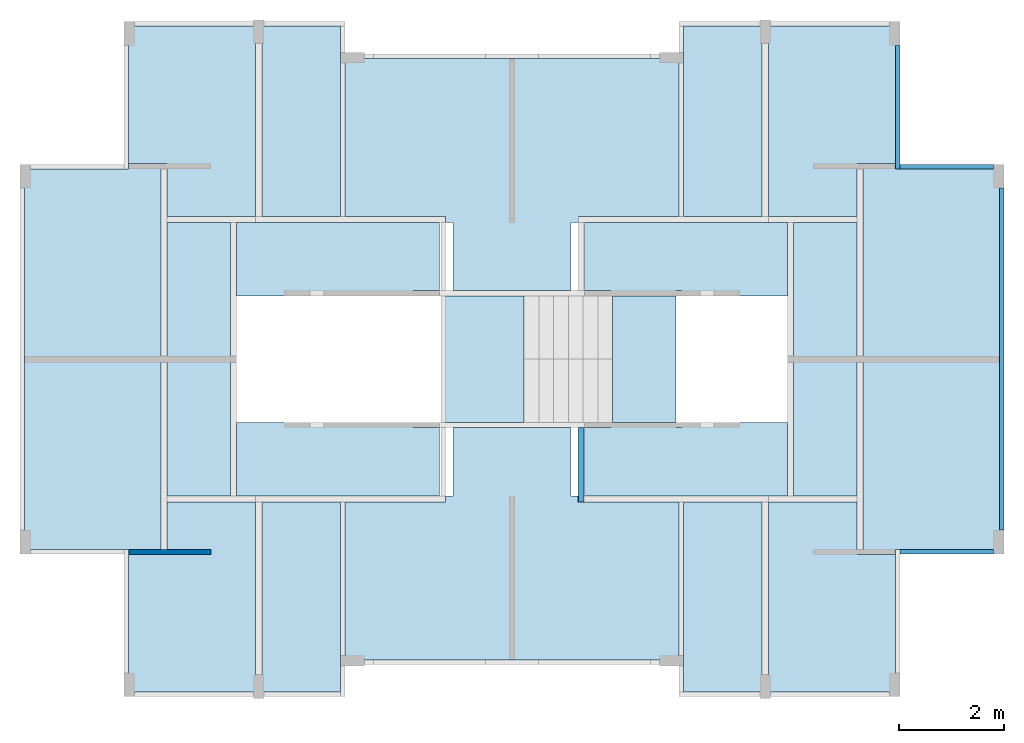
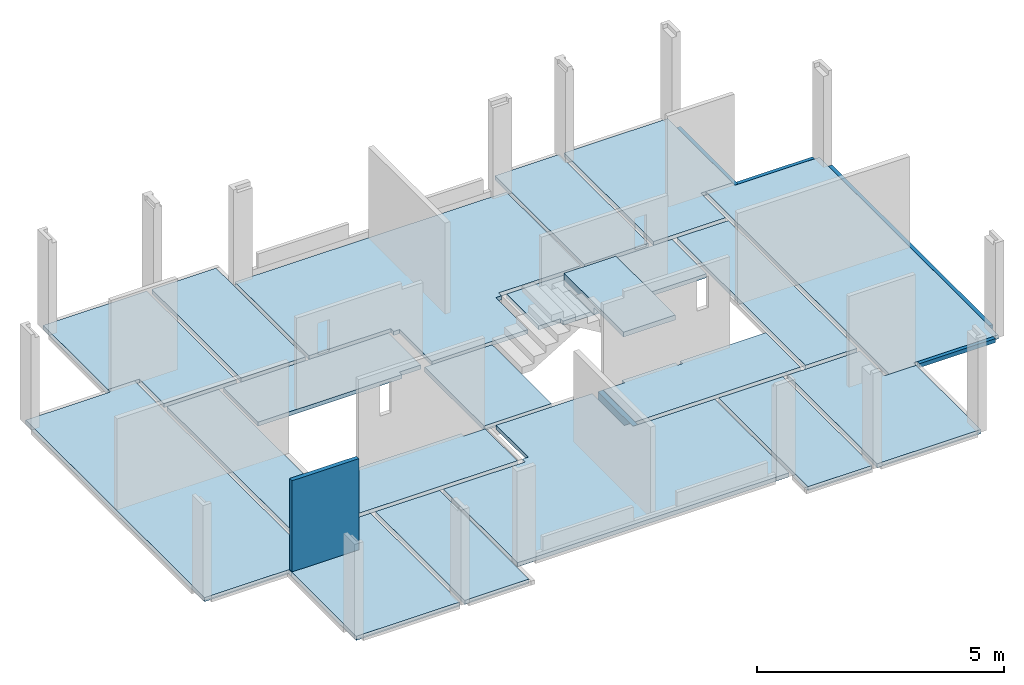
# One storey, part 3 of 6: 20 slabs, 5 beams, 1 wall, 1 element without a shape of its own.
"""IFC4 building model written with IfcOpenShell, lengths in metres."""

from ifc_helpers import new_model, entity, si_unit, converted_unit, derived_unit, direction, frame, frame_2d, origin, place, context, subcontext, project, spatial, polyline, indexed_curve, rectangle, outline, extrude, polygons, source, transform, mapped, material, type_object, type_shapes, element, aggregate, save


model = new_model("IFC4")

# Units and contexts
model_context = context("Model", 3, precision=1e-05, world=origin(), true_north=direction((6.123031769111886e-17, 1.0)))
body_context = subcontext(model_context, "Body", "Model", "MODEL_VIEW")
ifc_project = project(units=[si_unit("LENGTHUNIT", "METRE"), si_unit("AREAUNIT", "SQUARE_METRE"), si_unit("VOLUMEUNIT", "CUBIC_METRE"), converted_unit("PLANEANGLEUNIT", "DEGREE", entity("IfcRatioMeasure", 0.017453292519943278), si_unit("PLANEANGLEUNIT", "RADIAN"), dimensions=[0, 0, 0, 0, 0, 0, 0]), si_unit("MASSUNIT", "GRAM", prefix="KILO"), derived_unit("MASSDENSITYUNIT", [(si_unit("MASSUNIT", "GRAM", prefix="KILO"), 1), (si_unit("LENGTHUNIT", "METRE"), -3)]), derived_unit("IONCONCENTRATIONUNIT", [(si_unit("MASSUNIT", "GRAM", prefix="KILO"), 1), (si_unit("LENGTHUNIT", "METRE"), -3)]), derived_unit("MOMENTOFINERTIAUNIT", [(si_unit("LENGTHUNIT", "METRE"), 4)]), si_unit("TIMEUNIT", "SECOND"), si_unit("FREQUENCYUNIT", "HERTZ"), si_unit("THERMODYNAMICTEMPERATUREUNIT", "DEGREE_CELSIUS"), derived_unit("THERMALTRANSMITTANCEUNIT", [(si_unit("MASSUNIT", "GRAM", prefix="KILO"), 1), (si_unit("THERMODYNAMICTEMPERATUREUNIT", "KELVIN"), -1), (si_unit("TIMEUNIT", "SECOND"), -3)]), derived_unit("THERMALCONDUCTANCEUNIT", [(si_unit("MASSUNIT", "GRAM", prefix="KILO"), 1), (si_unit("THERMODYNAMICTEMPERATUREUNIT", "KELVIN"), -1), (si_unit("TIMEUNIT", "SECOND"), -3), (si_unit("LENGTHUNIT", "METRE"), 1)]), derived_unit("VOLUMETRICFLOWRATEUNIT", [(si_unit("LENGTHUNIT", "METRE"), 3), (si_unit("TIMEUNIT", "SECOND"), -1)]), derived_unit("MASSFLOWRATEUNIT", [(si_unit("MASSUNIT", "GRAM", prefix="KILO"), 1), (si_unit("TIMEUNIT", "SECOND"), -1)]), derived_unit("ROTATIONALFREQUENCYUNIT", [(si_unit("TIMEUNIT", "SECOND"), -1)]), si_unit("ELECTRICCURRENTUNIT", "AMPERE"), si_unit("ELECTRICVOLTAGEUNIT", "VOLT"), si_unit("POWERUNIT", "WATT"), si_unit("FORCEUNIT", "NEWTON", prefix="KILO"), si_unit("ILLUMINANCEUNIT", "LUX"), si_unit("LUMINOUSFLUXUNIT", "LUMEN"), si_unit("LUMINOUSINTENSITYUNIT", "CANDELA"), derived_unit("USERDEFINED", [(si_unit("MASSUNIT", "GRAM", prefix="KILO"), -1), (si_unit("LENGTHUNIT", "METRE"), -2), (si_unit("TIMEUNIT", "SECOND"), 3), (si_unit("LUMINOUSFLUXUNIT", "LUMEN"), 1)]), derived_unit("USERDEFINED", [(si_unit("MASSUNIT", "GRAM", prefix="KILO"), 1), (si_unit("TIMEUNIT", "SECOND"), -3), (si_unit("LENGTHUNIT", "METRE"), 3), (si_unit("ELECTRICCURRENTUNIT", "AMPERE"), -2)]), derived_unit("SOUNDPOWERUNIT", [(si_unit("MASSUNIT", "GRAM", prefix="KILO"), 1), (si_unit("TIMEUNIT", "SECOND"), -3), (si_unit("LENGTHUNIT", "METRE"), 2)]), derived_unit("SOUNDPRESSUREUNIT", [(si_unit("MASSUNIT", "GRAM", prefix="KILO"), 1), (si_unit("LENGTHUNIT", "METRE"), -1), (si_unit("TIMEUNIT", "SECOND"), -2)]), derived_unit("LINEARVELOCITYUNIT", [(si_unit("LENGTHUNIT", "METRE"), 1), (si_unit("TIMEUNIT", "SECOND"), -1)]), si_unit("PRESSUREUNIT", "PASCAL"), derived_unit("USERDEFINED", [(si_unit("MASSUNIT", "GRAM", prefix="KILO"), 1), (si_unit("LENGTHUNIT", "METRE"), -2), (si_unit("TIMEUNIT", "SECOND"), -2)]), derived_unit("LINEARFORCEUNIT", [(si_unit("MASSUNIT", "GRAM", prefix="KILO"), 1), (si_unit("TIMEUNIT", "SECOND"), -2)]), derived_unit("PLANARFORCEUNIT", [(si_unit("MASSUNIT", "GRAM", prefix="KILO"), 1), (si_unit("LENGTHUNIT", "METRE"), -1), (si_unit("TIMEUNIT", "SECOND"), -2)]), derived_unit("SPECIFICHEATCAPACITYUNIT", [(si_unit("THERMODYNAMICTEMPERATUREUNIT", "KELVIN"), -1), (si_unit("LENGTHUNIT", "METRE"), 2), (si_unit("TIMEUNIT", "SECOND"), -2)]), derived_unit("HEATINGVALUEUNIT", [(si_unit("LENGTHUNIT", "METRE"), 2), (si_unit("TIMEUNIT", "SECOND"), -2)]), derived_unit("VAPORPERMEABILITYUNIT", [(si_unit("LENGTHUNIT", "METRE"), -1), (si_unit("TIMEUNIT", "SECOND"), 1)]), derived_unit("DYNAMICVISCOSITYUNIT", [(si_unit("MASSUNIT", "GRAM", prefix="KILO"), 1), (si_unit("TIMEUNIT", "SECOND"), -1), (si_unit("LENGTHUNIT", "METRE"), -1)]), derived_unit("THERMALEXPANSIONCOEFFICIENTUNIT", [(si_unit("THERMODYNAMICTEMPERATUREUNIT", "KELVIN"), -1)]), derived_unit("MODULUSOFELASTICITYUNIT", [(si_unit("MASSUNIT", "GRAM", prefix="KILO"), 1), (si_unit("LENGTHUNIT", "METRE"), -1), (si_unit("TIMEUNIT", "SECOND"), -2)]), derived_unit("ISOTHERMALMOISTURECAPACITYUNIT", [(si_unit("LENGTHUNIT", "METRE"), 3), (si_unit("MASSUNIT", "GRAM", prefix="KILO"), -1)]), derived_unit("MOISTUREDIFFUSIVITYUNIT", [(si_unit("TIMEUNIT", "SECOND"), -1), (si_unit("LENGTHUNIT", "METRE"), 2)])], contexts=[model_context])

# Site, building, storey
site_placement = place(None, origin())
site = spatial("IfcSite", under=ifc_project, at=site_placement, Name="Default", CompositionType="ELEMENT")
building_placement = place(site_placement, origin())
building = spatial("IfcBuilding", under=site, at=building_placement, Name="Las nubes", CompositionType="ELEMENT")
storey_placement = place(building_placement, frame((0.0, 0.0, 9.400000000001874)))
storey = spatial("IfcBuildingStorey", under=building, at=storey_placement, Name="PISO 5", CompositionType="ELEMENT", Elevation=9.400000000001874)

# Beams
ifc_material_1 = material(Name="Concrete, Cast In Situ", Category="Materials")
beam_type_1 = type_object("IfcBeamType", Name="M_Concrete-Rectangular Beam:(0.085x0.10)", PredefinedType="BEAM", material=ifc_material_1)
shared_shape_1 = source(origin(), body_context, "Body", "SweptSolid", [
    extrude(outline(indexed_curve([(-0.050000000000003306, -0.04249999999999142), (0.04999999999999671, -0.042500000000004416), (0.05000000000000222, 0.04249999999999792), (-0.04999999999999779, 0.042500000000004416), (-0.050000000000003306, -0.04249999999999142)], self_intersect=False)), frame((16.697500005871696, -10.082497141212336, 9.350000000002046), z_axis=(1.0, 0.0, 0.0), x_axis=(0.0, 0.0, -1.0)), (0.0, 0.0, 1.0), 1.7749999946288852),
])
type_shapes(beam_type_1, [shared_shape_1])
beam_1_placement = place(storey_placement, frame((0.0, 0.0, -9.400000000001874)))
element("IfcBeam", 1, at=beam_1_placement, inside=storey, type_object=beam_type_1, material=ifc_material_1, Name="M_Concrete-Rectangular Beam:(0.085x0.10)", ObjectType="M_Concrete-Rectangular Beam:(0.085x0.10)", PredefinedType="BEAM", context=body_context, shape_type="MappedRepresentation", body=[
    mapped(shared_shape_1, transform((0.0, 0.0, 0.0), scale=1.0)),
])
beam_type_2 = type_object("IfcBeamType", Name="M_Concrete-Rectangular Beam:(0.085x0.10)", PredefinedType="BEAM", material=ifc_material_1)
shared_shape_2 = source(origin(), body_context, "Body", "SweptSolid", [
    extrude(outline(indexed_curve([(-0.042499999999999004, -0.050000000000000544), (0.042500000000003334, -0.050000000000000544), (0.042500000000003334, 0.04999999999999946), (-0.042499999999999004, 0.04999999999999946), (-0.042499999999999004, -0.050000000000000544)], self_intersect=False)), frame((18.630000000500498, -9.675000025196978, 9.350000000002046), z_axis=(0.0, 1.0, 0.0), x_axis=(-1.0, 0.0, 0.0)), (0.0, 0.0, 1.0), 6.499999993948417),
])
type_shapes(beam_type_2, [shared_shape_2])
beam_2_placement = place(storey_placement, frame((0.0, 0.0, -9.400000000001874)))
element("IfcBeam", 2, at=beam_2_placement, inside=storey, type_object=beam_type_2, material=ifc_material_1, Name="M_Concrete-Rectangular Beam:(0.085x0.10)", ObjectType="M_Concrete-Rectangular Beam:(0.085x0.10)", PredefinedType="BEAM", context=body_context, shape_type="MappedRepresentation", body=[
    mapped(shared_shape_2, transform((0.0, 0.0, 0.0), scale=1.0)),
])
beam_type_3 = type_object("IfcBeamType", Name="M_Concrete-Rectangular Beam:(0.085x0.10)", PredefinedType="BEAM", material=ifc_material_1)
shared_shape_3 = source(origin(), body_context, "Body", "SweptSolid", [
    extrude(outline(indexed_curve([(-0.042500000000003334, -0.050000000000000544), (0.042499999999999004, -0.050000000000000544), (0.042499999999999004, 0.04999999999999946), (-0.042500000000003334, 0.04999999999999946), (-0.042500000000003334, -0.050000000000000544)], self_intersect=False)), frame((16.65500000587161, -2.8099983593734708, 9.350000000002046), z_axis=(0.0, 1.0, 0.0), x_axis=(-1.0, 0.0, 0.0)), (0.0, 0.0, 1.0), 2.34999833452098),
])
type_shapes(beam_type_3, [shared_shape_3])
beam_3_placement = place(storey_placement, frame((0.0, 0.0, -9.400000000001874)))
element("IfcBeam", 3, at=beam_3_placement, inside=storey, type_object=beam_type_3, material=ifc_material_1, Name="M_Concrete-Rectangular Beam:(0.085x0.10)", ObjectType="M_Concrete-Rectangular Beam:(0.085x0.10)", PredefinedType="BEAM", context=body_context, shape_type="MappedRepresentation", body=[
    mapped(shared_shape_3, transform((0.0, 0.0, 0.0), scale=1.0)),
])
beam_type_4 = type_object("IfcBeamType", Name="M_Concrete-Rectangular Beam:(0.115x0.25)", PredefinedType="BEAM", material=ifc_material_1)
shared_shape_4 = source(origin(), body_context, "Body", "Tessellation", [
    polygons([(0.11500000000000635, 1.4150000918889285, 0.24999999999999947), (2.1657342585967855e-15, 1.4150000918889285, 0.24999999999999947), (4.331468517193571e-15, 0.11500012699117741, 0.24999999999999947), (0.00500000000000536, 0.11500012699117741, 0.24999999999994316), (0.00500000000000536, 0.0, 0.24999999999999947), (0.11500000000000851, 0.0, 0.24999999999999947), (0.11500000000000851, 0.1150000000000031, 0.24999999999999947), (2.1657342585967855e-15, 1.4150000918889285, 0.0), (4.331468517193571e-15, 0.0, 0.0), (4.331468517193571e-15, 0.0, 0.14999999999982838), (4.331468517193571e-15, 0.11500012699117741, 0.14999999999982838), (0.11500000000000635, 1.4150000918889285, 0.0), (0.11500000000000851, 0.11500000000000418, 0.0), (0.11500000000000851, 0.0, 0.0), (0.11500000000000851, 0.0, 0.14999999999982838), (0.00500000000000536, 0.0, 0.14999999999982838), (0.00500000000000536, 0.11500012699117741, 0.14999999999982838)], [[[1, 2, 3, 4, 5, 6, 7]], [[2, 8, 9, 10, 11, 3]], [[8, 12, 13, 14, 9]], [[12, 1, 7, 6, 15, 14, 13]], [[8, 2, 1, 12]], [[16, 17, 11, 10]], [[17, 16, 5, 4]], [[17, 4, 3, 11]], [[9, 14, 15, 6, 5, 16, 10]]], closed=True),
])
type_shapes(beam_type_4, [shared_shape_4])
beam_4_placement = place(storey_placement, frame((10.577499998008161, -9.140000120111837, -0.24999999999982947)))
element("IfcBeam", 4, at=beam_4_placement, inside=storey, type_object=beam_type_4, material=ifc_material_1, Name="M_Concrete-Rectangular Beam:(0.115x0.25)", ObjectType="M_Concrete-Rectangular Beam:(0.115x0.25)", PredefinedType="BEAM", context=body_context, shape_type="MappedRepresentation", body=[
    mapped(shared_shape_4, transform((0.0, 0.0, 0.0), scale=1.0)),
])
beam_type_5 = type_object("IfcBeamType", Name="M_Concrete-Rectangular Beam:(0.085x0.10)", PredefinedType="BEAM", material=ifc_material_1)
shared_shape_5 = source(origin(), body_context, "Body", "SweptSolid", [
    extrude(outline(indexed_curve([(-0.05000000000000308, -0.04249999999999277), (0.049999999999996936, -0.04250000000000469), (0.050000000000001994, 0.04249999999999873), (-0.04999999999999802, 0.04250000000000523), (-0.05000000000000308, -0.04249999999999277)], self_intersect=False)), frame((18.472500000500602, -2.7674983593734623, 9.350000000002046), z_axis=(-1.0, 0.0, 0.0), x_axis=(0.0, 0.0, -1.0)), (0.0, 0.0, 1.0), 1.7749999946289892),
])
type_shapes(beam_type_5, [shared_shape_5])
beam_5_placement = place(storey_placement, frame((0.0, 0.0, -9.400000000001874)))
element("IfcBeam", 5, at=beam_5_placement, inside=storey, type_object=beam_type_5, material=ifc_material_1, Name="M_Concrete-Rectangular Beam:(0.085x0.10)", ObjectType="M_Concrete-Rectangular Beam:(0.085x0.10)", PredefinedType="BEAM", context=body_context, shape_type="MappedRepresentation", body=[
    mapped(shared_shape_5, transform((0.0, 0.0, 0.0), scale=1.0)),
])

# Slabs
ifc_material_2 = material(Name="Concrete - Cast-in-Place Concrete - 28 MPa SLAB", Category="Materials")
slab_type_1 = type_object("IfcSlabType", Name="Floor:PLACA ESTRUCTURAL 0.10", PredefinedType="FLOOR", material=ifc_material_2)
slab_1_placement = place(storey_placement, origin())
element("IfcSlab", 6, at=slab_1_placement, inside=storey, type_object=slab_type_1, material=ifc_material_2, Name="Floor:PLACA ESTRUCTURAL 0.10", ObjectType="Floor:PLACA ESTRUCTURAL 0.10", PredefinedType="FLOOR", context=body_context, shape_type="SweptSolid", body=[
    extrude(outline(indexed_curve([(-0.5383333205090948, -1.0516670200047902), (2.0766666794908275, -1.0516670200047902), (2.07666667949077, 1.368332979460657), (-1.5383333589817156, 1.3683329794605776), (-1.5383333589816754, -0.316665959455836), (-0.5383333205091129, -0.31666595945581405), (-0.5383333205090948, -1.0516670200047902)], self_intersect=False)), frame((3.0841670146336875, -2.1716667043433, 0.0), z_axis=(0.0, 0.0, -1.0), x_axis=(0.0, 1.0, 0.0)), (0.0, 0.0, 1.0), 0.1),
])
slab_2_placement = place(storey_placement, origin())
element("IfcSlab", 7, at=slab_2_placement, inside=storey, type_object=slab_type_1, material=ifc_material_2, Name="Floor:PLACA ESTRUCTURAL 0.10", ObjectType="Floor:PLACA ESTRUCTURAL 0.10", PredefinedType="FLOOR", context=body_context, shape_type="SweptSolid", body=[
    extrude(outline(indexed_curve([(-3.6149999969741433, -1.636250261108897), (3.614999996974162, -1.636250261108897), (3.614999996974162, 0.33874973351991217), (3.7150000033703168, 0.3387497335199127), (3.7150000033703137, 0.9587507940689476), (-3.7150000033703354, 0.9587507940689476), (-3.715000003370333, 0.33874973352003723), (-3.6149999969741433, 0.3387497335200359), (-3.6149999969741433, -1.636250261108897)], self_intersect=False)), frame((1.693750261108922, -6.425000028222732, 0.0), z_axis=(0.0, 0.0, -1.0), x_axis=(0.0, 1.0, 0.0)), (0.0, 0.0, 1.0), 0.1),
])
slab_3_placement = place(storey_placement, origin())
element("IfcSlab", 8, at=slab_3_placement, inside=storey, type_object=slab_type_1, material=ifc_material_2, Name="Floor:PLACA ESTRUCTURAL 0.10", ObjectType="Floor:PLACA ESTRUCTURAL 0.10", PredefinedType="FLOOR", context=body_context, shape_type="SweptSolid", body=[
    extrude(outline(indexed_curve([(-2.0766666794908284, -1.0516670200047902), (0.5383333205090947, -1.0516670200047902), (0.5383333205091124, -0.3166659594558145), (1.5383333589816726, -0.3166659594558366), (1.5383333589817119, 1.368332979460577), (-2.0766666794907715, 1.3683329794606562), (-2.0766666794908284, -1.0516670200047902)], self_intersect=False)), frame((3.0841670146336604, -10.67833335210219, 0.0), z_axis=(0.0, 0.0, -1.0), x_axis=(0.0, 1.0, 0.0)), (0.0, 0.0, 1.0), 0.1),
])
slab_4_placement = place(storey_placement, frame((2.767501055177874, -12.755000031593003, -0.09999999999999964)))
element("IfcSlab", 9, at=slab_4_placement, inside=storey, type_object=slab_type_1, material=ifc_material_2, Name="Floor:PLACA ESTRUCTURAL 0.10", ObjectType="Floor:PLACA ESTRUCTURAL 0.10", PredefinedType="FLOOR", context=body_context, shape_type="SweptSolid", body=[
    extrude(rectangle(XDim=1.2049989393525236, YDim=5.19999992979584, at=frame_2d((5.952499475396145, 0.0), x_axis=(1.0, 0.0))), frame((6.554998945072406, 6.33000000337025, 0.09999999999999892), z_axis=(0.0, 0.0, -1.0), x_axis=(-1.0, 0.0, 0.0)), (0.0, 0.0, 1.0), 0.1),
])
slab_5_placement = place(storey_placement, frame((2.767501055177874, -12.755000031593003, -0.09999999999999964)))
element("IfcSlab", 10, at=slab_5_placement, inside=storey, type_object=slab_type_1, Name="Floor:PLACA ESTRUCTURAL 0.10:2", ObjectType="Floor:PLACA ESTRUCTURAL 0.10", PredefinedType="FLOOR", context=body_context, shape_type="SweptSolid", body=[
    extrude(outline(polyline([(1.3749999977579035, 2.599999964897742), (1.3749999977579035, 1.300000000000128), (1.8799999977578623, 1.300000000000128), (1.8799999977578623, 1.2000000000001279), (5.235000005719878, 1.2000000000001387), (5.235000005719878, 2.5999999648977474), (1.3749999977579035, 2.599999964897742)])), frame((6.554998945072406, 6.33000000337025, 0.09999999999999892), z_axis=(0.0, 0.0, -1.0), x_axis=(-1.0, 0.0, 0.0)), (0.0, 0.0, 1.0), 0.1),
])
slab_6_placement = place(storey_placement, frame((2.767501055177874, -12.755000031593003, -0.09999999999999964)))
element("IfcSlab", 11, at=slab_6_placement, inside=storey, type_object=slab_type_1, Name="Floor:PLACA ESTRUCTURAL 0.10:3", ObjectType="Floor:PLACA ESTRUCTURAL 0.10", PredefinedType="FLOOR", context=body_context, shape_type="SweptSolid", body=[
    extrude(outline(polyline([(5.235000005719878, -1.2000000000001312), (1.8799999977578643, -1.2000000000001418), (1.8799999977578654, -1.3000000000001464), (1.3749999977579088, -1.3000000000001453), (1.3749999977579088, -2.600000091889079), (5.235000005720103, -2.600000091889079), (5.235000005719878, -1.2000000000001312)])), frame((6.554998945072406, 6.33000000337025, 0.09999999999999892), z_axis=(0.0, 0.0, -1.0), x_axis=(-1.0, 0.0, 0.0)), (0.0, 0.0, 1.0), 0.1),
])
slab_7_placement = place(storey_placement, frame((2.767501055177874, -12.755000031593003, -0.09999999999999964)))
element("IfcSlab", 12, at=slab_7_placement, inside=storey, type_object=slab_type_1, Name="Floor:PLACA ESTRUCTURAL 0.10:4", ObjectType="Floor:PLACA ESTRUCTURAL 0.10", PredefinedType="FLOOR", context=body_context, shape_type="SweptSolid", body=[
    extrude(rectangle(XDim=3.6149999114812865, YDim=1.499999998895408, at=frame_2d((4.00500000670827, 4.522500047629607), x_axis=(0.0, -1.0))), frame((6.554998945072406, 6.33000000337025, 0.09999999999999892), z_axis=(0.0, 0.0, -1.0), x_axis=(-1.0, 0.0, 0.0)), (0.0, 0.0, 1.0), 0.1),
])
slab_8_placement = place(storey_placement, frame((2.767501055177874, -12.755000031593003, -0.09999999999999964)))
element("IfcSlab", 13, at=slab_8_placement, inside=storey, type_object=slab_type_1, Name="Floor:PLACA ESTRUCTURAL 0.10:5", ObjectType="Floor:PLACA ESTRUCTURAL 0.10", PredefinedType="FLOOR", context=body_context, shape_type="SweptSolid", body=[
    extrude(rectangle(XDim=3.6149999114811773, YDim=1.4999999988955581, at=frame_2d((4.005000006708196, -4.522500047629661), x_axis=(0.0, -1.0))), frame((6.554998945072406, 6.33000000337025, 0.09999999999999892), z_axis=(0.0, 0.0, -1.0), x_axis=(-1.0, 0.0, 0.0)), (0.0, 0.0, 1.0), 0.1),
])
slab_9_placement = place(storey_placement, frame((2.767501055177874, -12.755000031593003, -0.09999999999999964)))
element("IfcSlab", 14, at=slab_9_placement, inside=storey, type_object=slab_type_1, Name="Floor:PLACA ESTRUCTURAL 0.10:6", ObjectType="Floor:PLACA ESTRUCTURAL 0.10", PredefinedType="FLOOR", context=body_context, shape_type="SweptSolid", body=[
    extrude(outline(polyline([(3.1700000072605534, 2.7150000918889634), (3.1700000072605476, 5.715000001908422), (-3.1700000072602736, 5.715000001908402), (-3.1700000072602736, 2.7150000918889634), (-1.2599999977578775, 2.7150000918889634), (-1.2599999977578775, 2.5999999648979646), (-1.1199999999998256, 2.5999999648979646), (-1.1199999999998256, 1.3000000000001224), (1.1200000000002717, 1.30000000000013), (1.1200000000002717, 2.5999999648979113), (1.2599999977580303, 2.5999999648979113), (1.2599999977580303, 2.7150000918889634), (3.1700000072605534, 2.7150000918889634)])), frame((6.554998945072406, 6.33000000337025, 0.09999999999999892), z_axis=(0.0, 0.0, -1.0), x_axis=(-1.0, 0.0, 0.0)), (0.0, 0.0, 1.0), 0.1),
])
slab_10_placement = place(storey_placement, frame((2.767501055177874, -12.755000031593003, -0.09999999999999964)))
element("IfcSlab", 15, at=slab_10_placement, inside=storey, type_object=slab_type_1, Name="Floor:PLACA ESTRUCTURAL 0.10:7", ObjectType="Floor:PLACA ESTRUCTURAL 0.10", PredefinedType="FLOOR", context=body_context, shape_type="SweptSolid", body=[
    extrude(outline(polyline([(1.2599999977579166, -2.599999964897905), (1.1200000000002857, -2.599999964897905), (1.1200000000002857, -1.3000000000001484), (-1.1199999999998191, -1.3000000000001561), (-1.1199999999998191, -2.5999999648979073), (-1.2599999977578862, -2.5999999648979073), (-1.2599999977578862, -2.7150000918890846), (-3.1700000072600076, -2.7150000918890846), (-3.170000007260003, -5.715000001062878), (3.1700000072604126, -5.715000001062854), (3.170000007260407, -2.715000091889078), (1.2599999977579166, -2.7150000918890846), (1.2599999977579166, -2.599999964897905)])), frame((6.554998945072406, 6.33000000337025, 0.09999999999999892), z_axis=(0.0, 0.0, -1.0), x_axis=(-1.0, 0.0, 0.0)), (0.0, 0.0, 1.0), 0.1),
])
slab_11_placement = place(storey_placement, frame((2.767501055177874, -12.755000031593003, -0.09999999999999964)))
element("IfcSlab", 16, at=slab_11_placement, inside=storey, type_object=slab_type_1, Name="Floor:PLACA ESTRUCTURAL 0.10:8", ObjectType="Floor:PLACA ESTRUCTURAL 0.10", PredefinedType="FLOOR", context=body_context, shape_type="SweptSolid", body=[
    extrude(rectangle(XDim=1.499999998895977, YDim=3.6149999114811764, at=frame_2d((-4.005000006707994, -4.522500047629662), x_axis=(1.0, 0.0))), frame((6.554998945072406, 6.33000000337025, 0.09999999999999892), z_axis=(0.0, 0.0, -1.0), x_axis=(-1.0, 0.0, 0.0)), (0.0, 0.0, 1.0), 0.1),
])
slab_12_placement = place(storey_placement, frame((2.767501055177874, -12.755000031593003, -0.09999999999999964)))
element("IfcSlab", 17, at=slab_12_placement, inside=storey, type_object=slab_type_1, Name="Floor:PLACA ESTRUCTURAL 0.10:9", ObjectType="Floor:PLACA ESTRUCTURAL 0.10", PredefinedType="FLOOR", context=body_context, shape_type="SweptSolid", body=[
    extrude(rectangle(XDim=1.499999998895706, YDim=3.614999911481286, at=frame_2d((-4.005000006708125, 4.522500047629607), x_axis=(1.0, 0.0))), frame((6.554998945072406, 6.33000000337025, 0.09999999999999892), z_axis=(0.0, 0.0, -1.0), x_axis=(-1.0, 0.0, 0.0)), (0.0, 0.0, 1.0), 0.1),
])
slab_13_placement = place(storey_placement, frame((2.767501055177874, -12.755000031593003, -0.09999999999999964)))
element("IfcSlab", 18, at=slab_13_placement, inside=storey, type_object=slab_type_1, Name="Floor:PLACA ESTRUCTURAL 0.10:10", ObjectType="Floor:PLACA ESTRUCTURAL 0.10", PredefinedType="FLOOR", context=body_context, shape_type="SweptSolid", body=[
    extrude(rectangle(XDim=1.2049989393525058, YDim=5.1999999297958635, at=frame_2d((-5.95249947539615, 0.0), x_axis=(1.0, 0.0))), frame((6.554998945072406, 6.33000000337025, 0.09999999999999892), z_axis=(0.0, 0.0, -1.0), x_axis=(-1.0, 0.0, 0.0)), (0.0, 0.0, 1.0), 0.1),
])
slab_14_placement = place(storey_placement, frame((2.767501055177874, -12.755000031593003, -0.09999999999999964)))
element("IfcSlab", 19, at=slab_14_placement, inside=storey, type_object=slab_type_1, Name="Floor:PLACA ESTRUCTURAL 0.10:11", ObjectType="Floor:PLACA ESTRUCTURAL 0.10", PredefinedType="FLOOR", context=body_context, shape_type="SweptSolid", body=[
    extrude(outline(polyline([(-3.1200000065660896, 1.2000000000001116), (-1.879999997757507, 1.2000000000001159), (-1.8799999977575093, 1.3000000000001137), (-1.374999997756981, 1.3000000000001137), (-1.374999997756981, 2.6000000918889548), (-5.235000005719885, 2.600000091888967), (-5.235000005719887, 1.2000000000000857), (-3.2350000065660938, 1.2000000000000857), (-3.2350000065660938, 1.300000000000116), (-3.1200000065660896, 1.300000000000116), (-3.1200000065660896, 1.2000000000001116)])), frame((6.554998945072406, 6.33000000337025, 0.09999999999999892), z_axis=(0.0, 0.0, -1.0), x_axis=(-1.0, 0.0, 0.0)), (0.0, 0.0, 1.0), 0.1),
])
slab_15_placement = place(storey_placement, frame((2.767501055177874, -12.755000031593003, -0.09999999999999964)))
element("IfcSlab", 20, at=slab_15_placement, inside=storey, type_object=slab_type_1, Name="Floor:PLACA ESTRUCTURAL 0.10:12", ObjectType="Floor:PLACA ESTRUCTURAL 0.10", PredefinedType="FLOOR", context=body_context, shape_type="SweptSolid", body=[
    extrude(outline(polyline([(-5.235000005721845, -2.6000000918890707), (-1.3749999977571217, -2.6000000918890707), (-1.3749999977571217, -1.3000000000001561), (-1.8799999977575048, -1.3000000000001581), (-1.8799999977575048, -1.2000000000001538), (-3.120000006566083, -1.2000000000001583), (-3.120000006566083, -1.300000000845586), (-3.2350000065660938, -1.300000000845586), (-3.2350000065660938, -1.1999999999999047), (-5.2350000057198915, -1.1999999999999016), (-5.235000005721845, -2.6000000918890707)])), frame((6.554998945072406, 6.33000000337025, 0.09999999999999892), z_axis=(0.0, 0.0, -1.0), x_axis=(-1.0, 0.0, 0.0)), (0.0, 0.0, 1.0), 0.1),
])
slab_16_placement = place(storey_placement, origin())
element("IfcSlab", 21, at=slab_16_placement, inside=storey, type_object=slab_type_1, material=ifc_material_2, Name="Floor:PLACA ESTRUCTURAL 0.10", ObjectType="Floor:PLACA ESTRUCTURAL 0.10", PredefinedType="FLOOR", context=body_context, shape_type="SweptSolid", body=[
    extrude(outline(indexed_curve([(-3.7150000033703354, -0.9587507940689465), (3.7150000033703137, -0.9587507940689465), (3.7150000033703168, -0.33874973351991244), (3.614999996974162, -0.33874973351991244), (3.614999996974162, 1.636250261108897), (-3.6149999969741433, 1.636250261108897), (-3.6149999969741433, -0.3387497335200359), (-3.715000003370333, -0.33874973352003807), (-3.7150000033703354, -0.9587507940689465)], self_intersect=False)), frame((16.95124973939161, -6.425000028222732, 0.0), z_axis=(0.0, 0.0, -1.0), x_axis=(0.0, 1.0, 0.0)), (0.0, 0.0, 1.0), 0.1),
])
slab_17_placement = place(storey_placement, origin())
element("IfcSlab", 22, at=slab_17_placement, inside=storey, type_object=slab_type_1, material=ifc_material_2, Name="Floor:PLACA ESTRUCTURAL 0.10", ObjectType="Floor:PLACA ESTRUCTURAL 0.10", PredefinedType="FLOOR", context=body_context, shape_type="SweptSolid", body=[
    extrude(outline(indexed_curve([(-2.0766666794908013, -1.368332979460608), (1.538333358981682, -1.368332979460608), (1.5383333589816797, 0.316665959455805), (0.5383333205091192, 0.3166659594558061), (0.5383333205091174, 1.0516670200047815), (-2.0766666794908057, 1.0516670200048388), (-2.0766666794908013, -1.368332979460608)], self_intersect=False)), frame((15.56083298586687, -10.67833335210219, 0.0), z_axis=(0.0, 0.0, -1.0), x_axis=(0.0, 1.0, 0.0)), (0.0, 0.0, 1.0), 0.1),
])
slab_18_placement = place(storey_placement, origin())
element("IfcSlab", 23, at=slab_18_placement, inside=storey, type_object=slab_type_1, material=ifc_material_2, Name="Floor:PLACA ESTRUCTURAL 0.10", ObjectType="Floor:PLACA ESTRUCTURAL 0.10", PredefinedType="FLOOR", context=body_context, shape_type="SweptSolid", body=[
    extrude(outline(indexed_curve([(-1.5383333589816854, -1.3683329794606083), (2.0766666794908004, -1.3683329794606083), (2.076666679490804, 1.0516670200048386), (-0.538333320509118, 1.0516670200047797), (-0.5383333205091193, 0.3166659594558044), (-1.538333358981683, 0.31666595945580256), (-1.5383333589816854, -1.3683329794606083)], self_intersect=False)), frame((15.56083298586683, -2.1716667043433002, 0.0), z_axis=(0.0, 0.0, -1.0), x_axis=(0.0, 1.0, 0.0)), (0.0, 0.0, 1.0), 0.1),
])

# Stair, slab
stair_type = type_object("IfcStairType", Name="Cast-In-Place Stair:B1080_Escalera Monolitica en Concreto", PredefinedType="HALF_TURN_STAIR")
stair_placement = place(storey_placement, origin())
stair = element("IfcStair", 24, at=stair_placement, inside=storey, type_object=stair_type, Name="Cast-In-Place Stair:Stair", ObjectType="Cast-In-Place Stair:B1080_Escalera Monolitica en Concreto", PredefinedType="HALF_TURN_STAIR")
ifc_material_3 = material(Name="Concrete, Cast-in-Place gray", Category="Materials")
slab_type_2 = type_object("IfcSlabType", Name="Monolithic Landing:120mm Thickness", PredefinedType="LANDING")
slab_19_placement = place(stair_placement, frame((11.23250000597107, -7.625000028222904, 0.0)))
slab_19 = element("IfcSlab", 25, at=slab_19_placement, type_object=slab_type_2, material=ifc_material_3, Name="Cast-In-Place Stair:Stair:524192 Landing 1", ObjectType="Monolithic Landing:120mm Thickness", PredefinedType="LANDING", context=body_context, shape_type="Tessellation", body=[
    polygons([(0.0, 2.4000000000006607, 1.1750000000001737), (0.0, 1.2000000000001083, 1.1750000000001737), (0.0, 1.199000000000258, 1.1750000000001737), (0.0, 0.0, 1.1750000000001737), (1.2100000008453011, 0.0, 1.1750000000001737), (1.2100000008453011, 2.4000000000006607, 1.1750000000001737), (0.31321383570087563, 2.4000000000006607, 1.1750000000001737), (1.2100000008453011, 0.0, 1.0550000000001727), (1.2100000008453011, 2.4000000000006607, 1.0550000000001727), (0.0, 2.4000000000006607, 0.8672315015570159), (0.0, 2.4000000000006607, 1.007142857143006), (0.3132138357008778, 2.4000000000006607, 1.0550000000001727), (0.0, 0.0, 1.0550000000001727), (0.3132138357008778, 1.2000000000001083, 1.0550000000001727), (0.0, 1.199000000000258, 1.0550000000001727), (0.0, 1.2000000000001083, 1.0550000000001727), (0.0, 1.2000000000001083, 0.8672315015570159), (0.0, 1.2000000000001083, 1.007142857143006)], [[[1, 2, 3, 4, 5, 6, 7]], [[6, 5, 8, 9]], [[10, 11, 1, 7, 6, 9, 12]], [[5, 4, 13, 8]], [[14, 12, 9, 8, 13, 15, 16]], [[2, 1, 11, 10, 17, 18, 16]], [[3, 2, 16, 15]], [[12, 14, 17, 10]], [[14, 16, 18, 17]], [[4, 3, 15, 13]]], closed=True),
])
aggregate(stair, [slab_19])

# Slab
slab_type_3 = type_object("IfcSlabType", Name="Floor:PLACA ESTRUCTURAL 0.12", PredefinedType="FLOOR", material=ifc_material_1)
slab_20_placement = place(storey_placement, origin())
element("IfcSlab", 26, at=slab_20_placement, inside=storey, type_object=slab_type_3, material=ifc_material_1, Name="Floor:PLACA ESTRUCTURAL 0.12", ObjectType="Floor:PLACA ESTRUCTURAL 0.12", PredefinedType="FLOOR", context=body_context, shape_type="SweptSolid", body=[
    extrude(outline(indexed_curve([(-1.2000000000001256, -0.7875000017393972), (1.2000000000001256, -0.7875000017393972), (1.2000000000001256, 0.7875000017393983), (-1.2000000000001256, 0.7875000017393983), (-1.2000000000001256, -0.7875000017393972)], self_intersect=False)), frame((8.765000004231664, -6.425000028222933, 0.0), z_axis=(0.0, 0.0, -1.0), x_axis=(0.0, 1.0, 0.0)), (0.0, 0.0, 1.0), 0.11999999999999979),
])

# Wall
ifc_material_4 = material(Name="Concrete - Cast-in-Place Concrete - 35 MPa", Category="Materials")
wall_type = type_object("IfcWallType", Name="Basic Wall:MURO 10cm", PredefinedType="STANDARD")
wall_placement = place(storey_placement, frame((3.602499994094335, -10.090000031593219, 0.0), z_axis=(0.0, 0.0, 1.0), x_axis=(-1.0, 0.0, 0.0)))
element("IfcWall", 27, at=wall_placement, inside=storey, type_object=wall_type, material=ifc_material_4, Name="Basic Wall:MURO 10cm", ObjectType="Basic Wall:MURO 10cm", PredefinedType="NOTDEFINED", context=body_context, shape_type="SweptSolid", body=[
    extrude(outline(indexed_curve([(1.5599999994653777, 0.049999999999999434), (-1.3794485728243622e-16, 0.04999999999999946), (1.3794485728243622e-16, -0.04999999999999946), (1.5599999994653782, -0.04999999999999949), (1.5599999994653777, 0.049999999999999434)], self_intersect=False)), origin(), (0.0, 0.0, 1.0), 2.2499999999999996),
])

save(model, "model.ifc")
